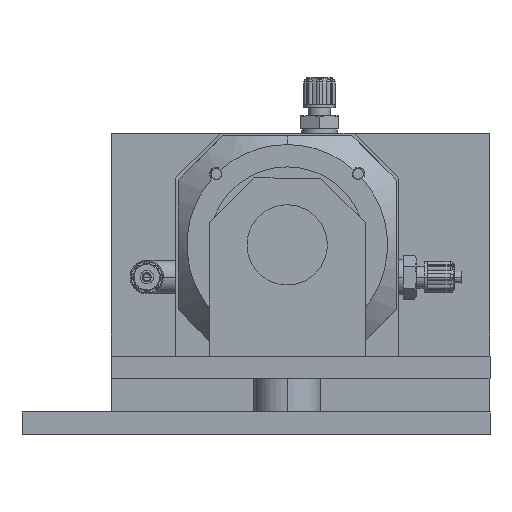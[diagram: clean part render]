
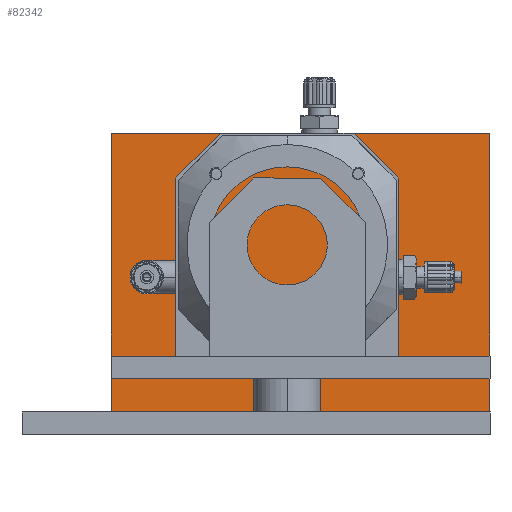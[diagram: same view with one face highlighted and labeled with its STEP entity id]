
A CAD part, front view. The second image highlights one B-rep face of the part: STEP entity #82342.
In plain terms, the highlighted planar face has unit normal (0, -1, 0).
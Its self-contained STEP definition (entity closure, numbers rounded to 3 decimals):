
#7623 = CARTESIAN_POINT ( 'NONE',  ( 170., 0., 0. ) ) ;
#8690 = VECTOR ( 'NONE', #80232, 1000. ) ;
#9383 = LINE ( 'NONE', #159243, #52967 ) ;
#20788 = LINE ( 'NONE', #75475, #94714 ) ;
#21382 = VERTEX_POINT ( 'NONE', #114043 ) ;
#28405 = EDGE_CURVE ( 'NONE', #61934, #67166, #57999, .T. ) ;
#40727 = EDGE_CURVE ( 'NONE', #67166, #21382, #78461, .T. ) ;
#42310 = EDGE_CURVE ( 'NONE', #21382, #113395, #20788, .T. ) ;
#48883 = DIRECTION ( 'NONE',  ( 1., 0., 0. ) ) ;
#52967 = VECTOR ( 'NONE', #48883, 1000. ) ;
#54453 = CARTESIAN_POINT ( 'NONE',  ( 170., 0., 0. ) ) ;
#57999 = LINE ( 'NONE', #54453, #102344 ) ;
#61934 = VERTEX_POINT ( 'NONE', #65451 ) ;
#61945 = CARTESIAN_POINT ( 'NONE',  ( 0., 0., 135. ) ) ;
#65236 = ORIENTED_EDGE ( 'NONE', *, *, #98353, .F. ) ;
#65451 = CARTESIAN_POINT ( 'NONE',  ( 170., 0., 135. ) ) ;
#67166 = VERTEX_POINT ( 'NONE', #7623 ) ;
#75475 = CARTESIAN_POINT ( 'NONE',  ( 0., 0., 0. ) ) ;
#78461 = LINE ( 'NONE', #118019, #8690 ) ;
#80232 = DIRECTION ( 'NONE',  ( -1., 0., 0. ) ) ;
#82342 = ADVANCED_FACE ( 'NONE', ( #103135 ), #169605, .F. ) ;
#88810 = CARTESIAN_POINT ( 'NONE',  ( 0., 0., 0. ) ) ;
#94714 = VECTOR ( 'NONE', #130236, 1000. ) ;
#98353 = EDGE_CURVE ( 'NONE', #113395, #61934, #9383, .T. ) ;
#102344 = VECTOR ( 'NONE', #109213, 1000. ) ;
#103135 = FACE_OUTER_BOUND ( 'NONE', #128704, .T. ) ;
#107857 = AXIS2_PLACEMENT_3D ( 'NONE', #88810, #141783, #130093 ) ;
#109213 = DIRECTION ( 'NONE',  ( 0., 0., -1. ) ) ;
#113395 = VERTEX_POINT ( 'NONE', #61945 ) ;
#114043 = CARTESIAN_POINT ( 'NONE',  ( 0., 0., 0. ) ) ;
#118019 = CARTESIAN_POINT ( 'NONE',  ( 0., 0., 0. ) ) ;
#120879 = ORIENTED_EDGE ( 'NONE', *, *, #28405, .F. ) ;
#127989 = ORIENTED_EDGE ( 'NONE', *, *, #40727, .F. ) ;
#128704 = EDGE_LOOP ( 'NONE', ( #166563, #127989, #120879, #65236 ) ) ;
#130093 = DIRECTION ( 'NONE',  ( 0., 0., 1. ) ) ;
#130236 = DIRECTION ( 'NONE',  ( 0., 0., 1. ) ) ;
#141783 = DIRECTION ( 'NONE',  ( 0., 1., 0. ) ) ;
#159243 = CARTESIAN_POINT ( 'NONE',  ( 0., 0., 135. ) ) ;
#166563 = ORIENTED_EDGE ( 'NONE', *, *, #42310, .F. ) ;
#169605 = PLANE ( 'NONE',  #107857 ) ;
